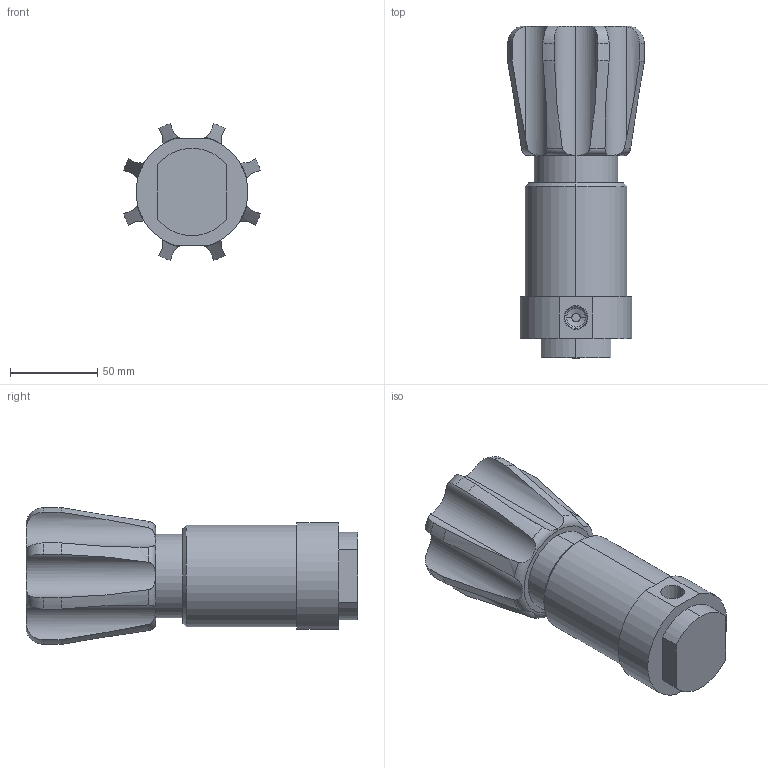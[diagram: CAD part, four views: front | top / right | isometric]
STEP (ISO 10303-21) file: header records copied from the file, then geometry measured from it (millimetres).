
FILE_DESCRIPTION (( 'STEP AP203' ), '1' );
FILE_NAME ('HPR-10000.STEP', '2025-11-18T11:54:37', ( '' ), ( '' ), 'SwSTEP 2.0', 'SolidWorks 2023', '' );
FILE_SCHEMA (( 'CONFIG_CONTROL_DESIGN' ));
Length unit declared in the file: millimetre
Products named in the file (1): HPR-10000
Bounding box: 78.19 x 189.7 x 78.19 mm (x, y, z)
Volume: 529326.4 mm3; surface area: 53371.1 mm2
Topology: 1 solids, 1 shells, 89 faces, 215 edges, 137 vertices
Faces by surface type: cylinder 38, cone 26, plane 15, torus 10
Entity records: 3481 total; most frequent: CARTESIAN_POINT 1320, DIRECTION 450, ORIENTED_EDGE 430, EDGE_CURVE 215, AXIS2_PLACEMENT_3D 191, VERTEX_POINT 137, CIRCLE 101, EDGE_LOOP 98
